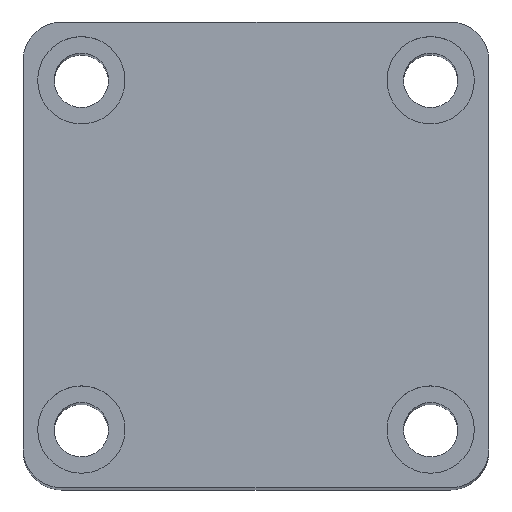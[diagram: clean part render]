
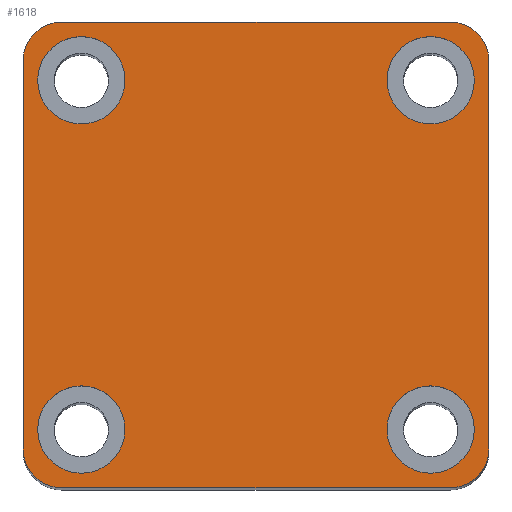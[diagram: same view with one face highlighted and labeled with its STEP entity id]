
A CAD part, top view. The second image highlights one B-rep face of the part: STEP entity #1618.
In plain terms, the highlighted planar face has unit normal (0, 0, 1).
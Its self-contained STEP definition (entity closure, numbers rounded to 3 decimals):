
#64 = VERTEX_POINT ( 'NONE', #2165 ) ;
#79 = VERTEX_POINT ( 'NONE', #2152 ) ;
#80 = VERTEX_POINT ( 'NONE', #2128 ) ;
#131 = VERTEX_POINT ( 'NONE', #2069 ) ;
#136 = VERTEX_POINT ( 'NONE', #2045 ) ;
#149 = VERTEX_POINT ( 'NONE', #1950 ) ;
#154 = VERTEX_POINT ( 'NONE', #1897 ) ;
#161 = VERTEX_POINT ( 'NONE', #1886 ) ;
#173 = VERTEX_POINT ( 'NONE', #2254 ) ;
#186 = VERTEX_POINT ( 'NONE', #2241 ) ;
#191 = VERTEX_POINT ( 'NONE', #2236 ) ;
#203 = VERTEX_POINT ( 'NONE', #2224 ) ;
#204 = VERTEX_POINT ( 'NONE', #2223 ) ;
#205 = VERTEX_POINT ( 'NONE', #2222 ) ;
#206 = VERTEX_POINT ( 'NONE', #2221 ) ;
#212 = VERTEX_POINT ( 'NONE', #2215 ) ;
#309 = CIRCLE ( 'NONE', #2750, 4.5 ) ;
#321 = CIRCLE ( 'NONE', #2758, 4.5 ) ;
#377 = VECTOR ( 'NONE', #762, 1000. ) ;
#380 = LINE ( 'NONE', #746, #377 ) ;
#393 = VECTOR ( 'NONE', #803, 1000. ) ;
#395 = LINE ( 'NONE', #804, #393 ) ;
#401 = CIRCLE ( 'NONE', #1010, 4.5 ) ;
#420 = CIRCLE ( 'NONE', #1018, 4.5 ) ;
#425 = CIRCLE ( 'NONE', #1019, 4.5 ) ;
#453 = CIRCLE ( 'NONE', #1050, 4. ) ;
#455 = CIRCLE ( 'NONE', #1051, 4. ) ;
#464 = CIRCLE ( 'NONE', #1052, 4. ) ;
#468 = CIRCLE ( 'NONE', #1054, 4.5 ) ;
#469 = CIRCLE ( 'NONE', #1053, 4. ) ;
#473 = CIRCLE ( 'NONE', #1055, 4.5 ) ;
#474 = VECTOR ( 'NONE', #818, 1000. ) ;
#477 = LINE ( 'NONE', #761, #474 ) ;
#494 = VECTOR ( 'NONE', #908, 1000. ) ;
#496 = LINE ( 'NONE', #895, #494 ) ;
#499 = CIRCLE ( 'NONE', #1069, 4.5 ) ;
#612 = FACE_BOUND ( 'NONE', #1545, .T. ) ;
#613 = FACE_BOUND ( 'NONE', #1524, .T. ) ;
#615 = FACE_OUTER_BOUND ( 'NONE', #1543, .T. ) ;
#619 = FACE_BOUND ( 'NONE', #1540, .T. ) ;
#620 = FACE_BOUND ( 'NONE', #1522, .T. ) ;
#695 = DIRECTION ( 'NONE',  ( 0., 0., 1. ) ) ;
#697 = CARTESIAN_POINT ( 'NONE',  ( -20., 20., 130. ) ) ;
#704 = DIRECTION ( 'NONE',  ( 1., 0., 0. ) ) ;
#706 = DIRECTION ( 'NONE',  ( 0., 0., 1. ) ) ;
#719 = CARTESIAN_POINT ( 'NONE',  ( 18., -18., 130. ) ) ;
#725 = DIRECTION ( 'NONE',  ( 1., 0., 0. ) ) ;
#726 = DIRECTION ( 'NONE',  ( 0., 0., 1. ) ) ;
#728 = CARTESIAN_POINT ( 'NONE',  ( -18., -18., 130. ) ) ;
#746 = CARTESIAN_POINT ( 'NONE',  ( -24., 24., 130. ) ) ;
#761 = CARTESIAN_POINT ( 'NONE',  ( 24., 24., 130. ) ) ;
#762 = DIRECTION ( 'NONE',  ( -1., 0., 0. ) ) ;
#803 = DIRECTION ( 'NONE',  ( 1., 0., 0. ) ) ;
#804 = CARTESIAN_POINT ( 'NONE',  ( -24., -24., 130. ) ) ;
#807 = DIRECTION ( 'NONE',  ( 1., 0., 0. ) ) ;
#808 = DIRECTION ( 'NONE',  ( 0., 0., 1. ) ) ;
#809 = CARTESIAN_POINT ( 'NONE',  ( 18., -18., 130. ) ) ;
#818 = DIRECTION ( 'NONE',  ( 0., 1., 0. ) ) ;
#855 = DIRECTION ( 'NONE',  ( 1., 0., 0. ) ) ;
#856 = DIRECTION ( 'NONE',  ( 0., 0., 1. ) ) ;
#857 = CARTESIAN_POINT ( 'NONE',  ( -18., -18., 130. ) ) ;
#864 = DIRECTION ( 'NONE',  ( 1., 0., 0. ) ) ;
#866 = DIRECTION ( 'NONE',  ( 0., 0., 1. ) ) ;
#868 = CARTESIAN_POINT ( 'NONE',  ( -18., 18., 130. ) ) ;
#882 = DIRECTION ( 'NONE',  ( 1., 0., 0. ) ) ;
#887 = DIRECTION ( 'NONE',  ( 0., 0., 1. ) ) ;
#891 = CARTESIAN_POINT ( 'NONE',  ( 18., 18., 130. ) ) ;
#895 = CARTESIAN_POINT ( 'NONE',  ( -24., 24., 130. ) ) ;
#908 = DIRECTION ( 'NONE',  ( 0., -1., 0. ) ) ;
#974 = DIRECTION ( 'NONE',  ( 1., 0., 0. ) ) ;
#976 = DIRECTION ( 'NONE',  ( 0., 0., 1. ) ) ;
#977 = CARTESIAN_POINT ( 'NONE',  ( -20., -20., 130. ) ) ;
#979 = DIRECTION ( 'NONE',  ( 1., 0., 0. ) ) ;
#980 = DIRECTION ( 'NONE',  ( 0., 0., 1. ) ) ;
#981 = CARTESIAN_POINT ( 'NONE',  ( 20., -20., 130. ) ) ;
#990 = DIRECTION ( 'NONE',  ( 1., 0., 0. ) ) ;
#991 = DIRECTION ( 'NONE',  ( 0., 0., 1. ) ) ;
#992 = CARTESIAN_POINT ( 'NONE',  ( 20., 20., 130. ) ) ;
#996 = DIRECTION ( 'NONE',  ( 1., 0., 0. ) ) ;
#1010 = AXIS2_PLACEMENT_3D ( 'NONE', #809, #808, #807 ) ;
#1018 = AXIS2_PLACEMENT_3D ( 'NONE', #857, #856, #855 ) ;
#1019 = AXIS2_PLACEMENT_3D ( 'NONE', #868, #866, #864 ) ;
#1050 = AXIS2_PLACEMENT_3D ( 'NONE', #977, #976, #974 ) ;
#1051 = AXIS2_PLACEMENT_3D ( 'NONE', #981, #980, #979 ) ;
#1052 = AXIS2_PLACEMENT_3D ( 'NONE', #992, #991, #990 ) ;
#1053 = AXIS2_PLACEMENT_3D ( 'NONE', #697, #695, #996 ) ;
#1054 = AXIS2_PLACEMENT_3D ( 'NONE', #719, #706, #704 ) ;
#1055 = AXIS2_PLACEMENT_3D ( 'NONE', #728, #726, #725 ) ;
#1069 = AXIS2_PLACEMENT_3D ( 'NONE', #891, #887, #882 ) ;
#1222 = ORIENTED_EDGE ( 'NONE', *, *, #1738, .F. ) ;
#1223 = ORIENTED_EDGE ( 'NONE', *, *, #1845, .F. ) ;
#1224 = ORIENTED_EDGE ( 'NONE', *, *, #1681, .F. ) ;
#1226 = ORIENTED_EDGE ( 'NONE', *, *, #1849, .F. ) ;
#1228 = ORIENTED_EDGE ( 'NONE', *, *, #1742, .F. ) ;
#1229 = ORIENTED_EDGE ( 'NONE', *, *, #1701, .F. ) ;
#1231 = ORIENTED_EDGE ( 'NONE', *, *, #1703, .F. ) ;
#1233 = ORIENTED_EDGE ( 'NONE', *, *, #1756, .F. ) ;
#1236 = ORIENTED_EDGE ( 'NONE', *, *, #1802, .T. ) ;
#1238 = ORIENTED_EDGE ( 'NONE', *, *, #1704, .T. ) ;
#1240 = ORIENTED_EDGE ( 'NONE', *, *, #1682, .T. ) ;
#1242 = ORIENTED_EDGE ( 'NONE', *, *, #1712, .T. ) ;
#1243 = ORIENTED_EDGE ( 'NONE', *, *, #1760, .T. ) ;
#1244 = ORIENTED_EDGE ( 'NONE', *, *, #1711, .T. ) ;
#1245 = ORIENTED_EDGE ( 'NONE', *, *, #1698, .T. ) ;
#1246 = ORIENTED_EDGE ( 'NONE', *, *, #1706, .T. ) ;
#1522 = EDGE_LOOP ( 'NONE', ( #1222, #1223 ) ) ;
#1524 = EDGE_LOOP ( 'NONE', ( #1231, #1233 ) ) ;
#1540 = EDGE_LOOP ( 'NONE', ( #1228, #1229 ) ) ;
#1543 = EDGE_LOOP ( 'NONE', ( #1236, #1238, #1240, #1242, #1243, #1244, #1245, #1246 ) ) ;
#1545 = EDGE_LOOP ( 'NONE', ( #1224, #1226 ) ) ;
#1618 = ADVANCED_FACE ( 'NONE', ( #620, #612, #619, #613, #615 ), #2098, .T. ) ;
#1681 = EDGE_CURVE ( 'NONE', #154, #204, #499, .T. ) ;
#1682 = EDGE_CURVE ( 'NONE', #203, #205, #496, .T. ) ;
#1698 = EDGE_CURVE ( 'NONE', #64, #131, #477, .T. ) ;
#1701 = EDGE_CURVE ( 'NONE', #186, #191, #473, .T. ) ;
#1703 = EDGE_CURVE ( 'NONE', #173, #79, #468, .T. ) ;
#1704 = EDGE_CURVE ( 'NONE', #212, #203, #469, .T. ) ;
#1706 = EDGE_CURVE ( 'NONE', #131, #80, #464, .T. ) ;
#1711 = EDGE_CURVE ( 'NONE', #149, #64, #455, .T. ) ;
#1712 = EDGE_CURVE ( 'NONE', #205, #136, #453, .T. ) ;
#1738 = EDGE_CURVE ( 'NONE', #161, #206, #425, .T. ) ;
#1742 = EDGE_CURVE ( 'NONE', #191, #186, #420, .T. ) ;
#1756 = EDGE_CURVE ( 'NONE', #79, #173, #401, .T. ) ;
#1760 = EDGE_CURVE ( 'NONE', #136, #149, #395, .T. ) ;
#1765 = AXIS2_PLACEMENT_3D ( 'NONE', #2102, #2104, #2094 ) ;
#1802 = EDGE_CURVE ( 'NONE', #80, #212, #380, .T. ) ;
#1845 = EDGE_CURVE ( 'NONE', #206, #161, #321, .T. ) ;
#1849 = EDGE_CURVE ( 'NONE', #204, #154, #309, .T. ) ;
#1886 = CARTESIAN_POINT ( 'NONE',  ( -13.5, 18., 130. ) ) ;
#1897 = CARTESIAN_POINT ( 'NONE',  ( 22.5, 18., 130. ) ) ;
#1950 = CARTESIAN_POINT ( 'NONE',  ( 20., -24., 130. ) ) ;
#2045 = CARTESIAN_POINT ( 'NONE',  ( -20., -24., 130. ) ) ;
#2069 = CARTESIAN_POINT ( 'NONE',  ( 24., 20., 130. ) ) ;
#2094 = DIRECTION ( 'NONE',  ( 1., 0., 0. ) ) ;
#2098 = PLANE ( 'NONE',  #1765 ) ;
#2102 = CARTESIAN_POINT ( 'NONE',  ( 0., 0., 130. ) ) ;
#2104 = DIRECTION ( 'NONE',  ( 0., 0., 1. ) ) ;
#2128 = CARTESIAN_POINT ( 'NONE',  ( 20., 24., 130. ) ) ;
#2152 = CARTESIAN_POINT ( 'NONE',  ( 13.5, -18., 130. ) ) ;
#2165 = CARTESIAN_POINT ( 'NONE',  ( 24., -20., 130. ) ) ;
#2215 = CARTESIAN_POINT ( 'NONE',  ( -20., 24., 130. ) ) ;
#2221 = CARTESIAN_POINT ( 'NONE',  ( -22.5, 18., 130. ) ) ;
#2222 = CARTESIAN_POINT ( 'NONE',  ( -24., -20., 130. ) ) ;
#2223 = CARTESIAN_POINT ( 'NONE',  ( 13.5, 18., 130. ) ) ;
#2224 = CARTESIAN_POINT ( 'NONE',  ( -24., 20., 130. ) ) ;
#2236 = CARTESIAN_POINT ( 'NONE',  ( -13.5, -18., 130. ) ) ;
#2241 = CARTESIAN_POINT ( 'NONE',  ( -22.5, -18., 130. ) ) ;
#2254 = CARTESIAN_POINT ( 'NONE',  ( 22.5, -18., 130. ) ) ;
#2329 = DIRECTION ( 'NONE',  ( 1., 0., 0. ) ) ;
#2330 = DIRECTION ( 'NONE',  ( 0., 0., 1. ) ) ;
#2336 = CARTESIAN_POINT ( 'NONE',  ( 18., 18., 130. ) ) ;
#2367 = DIRECTION ( 'NONE',  ( 1., 0., 0. ) ) ;
#2369 = CARTESIAN_POINT ( 'NONE',  ( -18., 18., 130. ) ) ;
#2378 = DIRECTION ( 'NONE',  ( 0., 0., 1. ) ) ;
#2750 = AXIS2_PLACEMENT_3D ( 'NONE', #2336, #2330, #2329 ) ;
#2758 = AXIS2_PLACEMENT_3D ( 'NONE', #2369, #2378, #2367 ) ;
